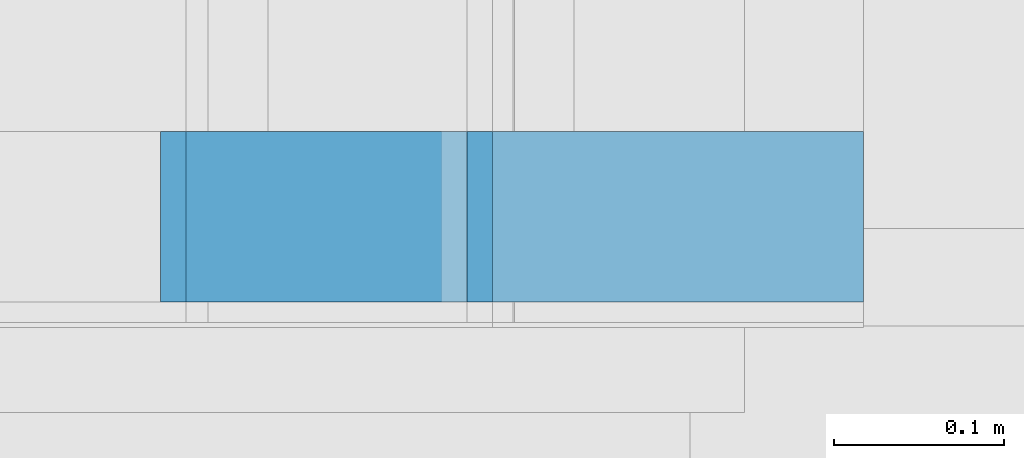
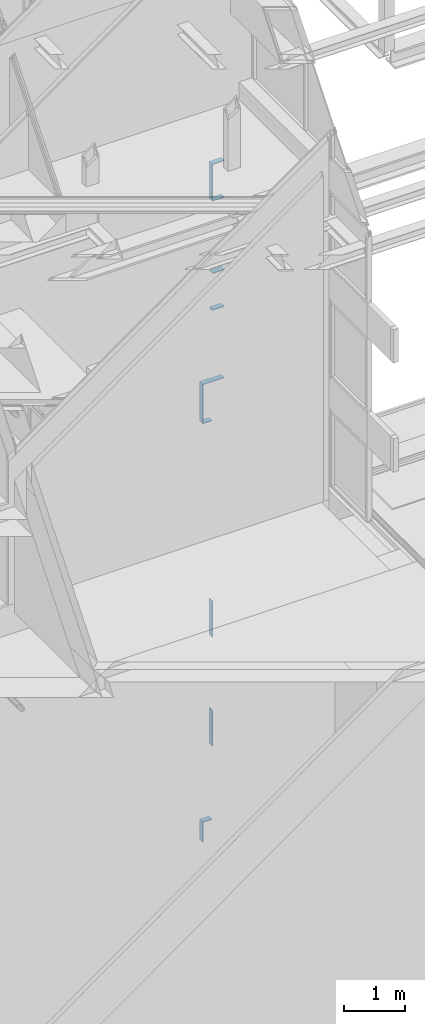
# One storey, part 225 of 583: 12 building element parts, 12 elements without a shape of their own.
"""IFC2X3 building model written with IfcOpenShell, lengths in metres."""

from ifc_helpers import new_model, entity, si_unit, converted_unit, derived_unit, money_unit, direction, frame, frame_2d, origin_with_axes, place, context, subcontext, project, spatial, polyline, rectangle, outline, extrude, material, type_object, element, aggregate, save


model = new_model("IFC2X3")

# Units and contexts
model_context = context("Model", 3, precision=1e-05, world=origin_with_axes(), true_north=direction((0.0, 1.0)))
body_context = subcontext(model_context, "Body", "Model", "MODEL_VIEW", scale=1.0)
ifc_project = project(units=[si_unit("LENGTHUNIT", "METRE"), si_unit("AREAUNIT", "SQUARE_METRE"), si_unit("VOLUMEUNIT", "CUBIC_METRE"), si_unit("ABSORBEDDOSEUNIT", "GRAY"), si_unit("AMOUNTOFSUBSTANCEUNIT", "MOLE"), si_unit("DOSEEQUIVALENTUNIT", "SIEVERT"), si_unit("ELECTRICCAPACITANCEUNIT", "FARAD"), si_unit("ELECTRICCHARGEUNIT", "COULOMB"), si_unit("ELECTRICCONDUCTANCEUNIT", "SIEMENS"), si_unit("ELECTRICCURRENTUNIT", "AMPERE"), si_unit("ELECTRICRESISTANCEUNIT", "OHM"), si_unit("ELECTRICVOLTAGEUNIT", "VOLT"), si_unit("ENERGYUNIT", "JOULE"), si_unit("FORCEUNIT", "NEWTON"), si_unit("FREQUENCYUNIT", "HERTZ"), si_unit("ILLUMINANCEUNIT", "LUX"), si_unit("INDUCTANCEUNIT", "HENRY"), si_unit("LUMINOUSFLUXUNIT", "LUMEN"), si_unit("LUMINOUSINTENSITYUNIT", "CANDELA"), si_unit("MAGNETICFLUXDENSITYUNIT", "TESLA"), si_unit("MAGNETICFLUXUNIT", "WEBER"), si_unit("MASSUNIT", "GRAM"), converted_unit("PLANEANGLEUNIT", "degree", entity("IfcReal", 0.0174532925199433), si_unit("PLANEANGLEUNIT", "RADIAN"), dimensions=[0, 0, 0, 0, 0, 0, 0]), si_unit("POWERUNIT", "WATT"), si_unit("PRESSUREUNIT", "PASCAL"), si_unit("RADIOACTIVITYUNIT", "BECQUEREL"), si_unit("SOLIDANGLEUNIT", "STERADIAN"), si_unit("THERMODYNAMICTEMPERATUREUNIT", "KELVIN"), si_unit("TIMEUNIT", "SECOND"), derived_unit("ACCELERATIONUNIT", [(si_unit("LENGTHUNIT", "METRE"), 1), (si_unit("TIMEUNIT", "SECOND"), -2)]), derived_unit("ANGULARVELOCITYUNIT", [(converted_unit("PLANEANGLEUNIT", "degree", entity("IfcReal", 0.0174532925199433), si_unit("PLANEANGLEUNIT", "RADIAN"), dimensions=[0, 0, 0, 0, 0, 0, 0]), 1), (si_unit("TIMEUNIT", "SECOND"), -1)]), derived_unit("CURVATUREUNIT", [(converted_unit("PLANEANGLEUNIT", "degree", entity("IfcReal", 0.0174532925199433), si_unit("PLANEANGLEUNIT", "RADIAN"), dimensions=[0, 0, 0, 0, 0, 0, 0]), 1), (si_unit("LENGTHUNIT", "METRE"), -1)]), derived_unit("DYNAMICVISCOSITYUNIT", [(si_unit("PRESSUREUNIT", "PASCAL"), 1), (si_unit("TIMEUNIT", "SECOND"), 1)]), derived_unit("HEATFLUXDENSITYUNIT", [(si_unit("POWERUNIT", "WATT"), 1), (si_unit("LENGTHUNIT", "METRE"), -2)]), derived_unit("HEATINGVALUEUNIT", [(si_unit("ENERGYUNIT", "JOULE"), 1), (si_unit("MASSUNIT", "GRAM"), -1)]), derived_unit("INTEGERCOUNTRATEUNIT", [(si_unit("TIMEUNIT", "SECOND"), -1)]), derived_unit("IONCONCENTRATIONUNIT", [(si_unit("MASSUNIT", "GRAM"), 1), (si_unit("VOLUMEUNIT", "CUBIC_METRE"), -1)]), derived_unit("ISOTHERMALMOISTURECAPACITYUNIT", [(si_unit("VOLUMEUNIT", "CUBIC_METRE"), 1), (si_unit("MASSUNIT", "GRAM"), -1)]), derived_unit("KINEMATICVISCOSITYUNIT", [(si_unit("AREAUNIT", "SQUARE_METRE"), 1), (si_unit("TIMEUNIT", "SECOND"), -1)]), derived_unit("LINEARFORCEUNIT", [(si_unit("FORCEUNIT", "NEWTON"), 1), (si_unit("LENGTHUNIT", "METRE"), -1)]), derived_unit("LINEARMOMENTUNIT", [(si_unit("FORCEUNIT", "NEWTON"), 1), (si_unit("LENGTHUNIT", "METRE"), -1)]), derived_unit("LINEARSTIFFNESSUNIT", [(si_unit("FORCEUNIT", "NEWTON"), 1), (si_unit("LENGTHUNIT", "METRE"), -1)]), derived_unit("LINEARVELOCITYUNIT", [(si_unit("LENGTHUNIT", "METRE"), 1), (si_unit("TIMEUNIT", "SECOND"), -1)]), derived_unit("LUMINOUSINTENSITYDISTRIBUTIONUNIT", [(si_unit("LUMINOUSINTENSITYUNIT", "CANDELA"), 1), (si_unit("LUMINOUSFLUXUNIT", "LUMEN"), -1)]), derived_unit("MASSDENSITYUNIT", [(si_unit("MASSUNIT", "GRAM"), 1), (si_unit("VOLUMEUNIT", "CUBIC_METRE"), -1)]), derived_unit("MASSFLOWRATEUNIT", [(si_unit("MASSUNIT", "GRAM"), 1), (si_unit("TIMEUNIT", "SECOND"), -1)]), derived_unit("MASSPERLENGTHUNIT", [(si_unit("MASSUNIT", "GRAM"), 1), (si_unit("LENGTHUNIT", "METRE"), -1)]), derived_unit("MODULUSOFELASTICITYUNIT", [(si_unit("FORCEUNIT", "NEWTON"), 1), (si_unit("AREAUNIT", "SQUARE_METRE"), -1)]), derived_unit("MODULUSOFLINEARSUBGRADEREACTIONUNIT", [(si_unit("FORCEUNIT", "NEWTON"), 1), (si_unit("LENGTHUNIT", "METRE"), -2)]), derived_unit("MODULUSOFROTATIONALSUBGRADEREACTIONUNIT", [(si_unit("FORCEUNIT", "NEWTON"), 1), (si_unit("LENGTHUNIT", "METRE"), 1)]), derived_unit("MODULUSOFSUBGRADEREACTIONUNIT", [(si_unit("FORCEUNIT", "NEWTON"), 1), (si_unit("VOLUMEUNIT", "CUBIC_METRE"), -1)]), derived_unit("MOISTUREDIFFUSIVITYUNIT", [(si_unit("VOLUMEUNIT", "CUBIC_METRE"), 1), (si_unit("TIMEUNIT", "SECOND"), -1)]), derived_unit("MOLECULARWEIGHTUNIT", [(si_unit("MASSUNIT", "GRAM"), 1), (si_unit("AMOUNTOFSUBSTANCEUNIT", "MOLE"), -1)]), derived_unit("PLANARFORCEUNIT", [(si_unit("FORCEUNIT", "NEWTON"), 1), (si_unit("LENGTHUNIT", "METRE"), -2)]), derived_unit("ROTATIONALFREQUENCYUNIT", [(si_unit("TIMEUNIT", "SECOND"), -1)]), derived_unit("ROTATIONALMASSUNIT", [(si_unit("MASSUNIT", "GRAM"), 1), (si_unit("LENGTHUNIT", "METRE"), 2)]), derived_unit("ROTATIONALSTIFFNESSUNIT", [(si_unit("FORCEUNIT", "NEWTON"), 1), (si_unit("LENGTHUNIT", "METRE"), 1), (converted_unit("PLANEANGLEUNIT", "degree", entity("IfcReal", 0.0174532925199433), si_unit("PLANEANGLEUNIT", "RADIAN"), dimensions=[0, 0, 0, 0, 0, 0, 0]), -1)]), derived_unit("SECTIONAREAINTEGRALUNIT", [(si_unit("LENGTHUNIT", "METRE"), 5)]), derived_unit("SECTIONMODULUSUNIT", [(si_unit("LENGTHUNIT", "METRE"), 3)]), derived_unit("SHEARMODULUSUNIT", [(si_unit("FORCEUNIT", "NEWTON"), 1), (si_unit("AREAUNIT", "SQUARE_METRE"), -1)]), derived_unit("SOUNDPOWERUNIT", [(si_unit("ENERGYUNIT", "JOULE"), 1), (si_unit("TIMEUNIT", "SECOND"), -1)]), derived_unit("SPECIFICHEATCAPACITYUNIT", [(si_unit("FORCEUNIT", "NEWTON"), 1), (si_unit("MASSUNIT", "GRAM"), -1), (si_unit("THERMODYNAMICTEMPERATUREUNIT", "KELVIN"), -1)]), derived_unit("TEMPERATUREGRADIENTUNIT", [(si_unit("THERMODYNAMICTEMPERATUREUNIT", "KELVIN"), 1), (si_unit("LENGTHUNIT", "METRE"), -1)]), derived_unit("THERMALADMITTANCEUNIT", [(si_unit("POWERUNIT", "WATT"), 1), (si_unit("AREAUNIT", "SQUARE_METRE"), -1), (si_unit("THERMODYNAMICTEMPERATUREUNIT", "KELVIN"), -1)]), derived_unit("THERMALCONDUCTANCEUNIT", [(si_unit("POWERUNIT", "WATT"), 1), (si_unit("LENGTHUNIT", "METRE"), -1), (si_unit("THERMODYNAMICTEMPERATUREUNIT", "KELVIN"), -1)]), derived_unit("THERMALEXPANSIONCOEFFICIENTUNIT", [(si_unit("THERMODYNAMICTEMPERATUREUNIT", "KELVIN"), -1)]), derived_unit("THERMALRESISTANCEUNIT", [(si_unit("AREAUNIT", "SQUARE_METRE"), 1), (si_unit("POWERUNIT", "WATT"), -1)]), derived_unit("THERMALTRANSMITTANCEUNIT", [(si_unit("POWERUNIT", "WATT"), 1), (si_unit("AREAUNIT", "SQUARE_METRE"), -1), (si_unit("THERMODYNAMICTEMPERATUREUNIT", "KELVIN"), -1)]), derived_unit("TORQUEUNIT", [(si_unit("FORCEUNIT", "NEWTON"), 1), (si_unit("LENGTHUNIT", "METRE"), 1)]), derived_unit("VAPORPERMEABILITYUNIT", [(si_unit("MASSUNIT", "GRAM"), 1), (si_unit("TIMEUNIT", "SECOND"), -1)]), derived_unit("VOLUMETRICFLOWRATEUNIT", [(si_unit("VOLUMEUNIT", "CUBIC_METRE"), 1), (si_unit("TIMEUNIT", "SECOND"), -1)]), derived_unit("WARPINGCONSTANTUNIT", [(si_unit("LENGTHUNIT", "METRE"), 6)]), derived_unit("WARPINGMOMENTUNIT", [(si_unit("FORCEUNIT", "NEWTON"), 1), (si_unit("LENGTHUNIT", "METRE"), 2)]), money_unit("GBP")], contexts=[model_context])

# Site, building, storey
site_placement = place(None, origin_with_axes())
site = spatial("IfcSite", under=ifc_project, at=site_placement, Name="Site", CompositionType="ELEMENT")
building_placement = place(site_placement, origin_with_axes())
building = spatial("IfcBuilding", under=site, at=building_placement, Name="Building01", CompositionType="ELEMENT")
storey_placement = place(building_placement, frame((0.0, 0.0, 20.78), z_axis=(0.0, 0.0, 1.0), x_axis=(1.0, 0.0, 0.0)))
storey = spatial("IfcBuildingStorey", under=building, at=storey_placement, Name="RL", CompositionType="ELEMENT", Elevation=20.78)

# Wall, building element part
wall_type = type_object("IfcWallType", Name="SHE_A-Walls_Type06d_ExternalWallInsulation_48mm", PredefinedType="NOTDEFINED")
wall_1_placement = place(storey_placement, frame((14.8, 8.64, -20.103), z_axis=(0.0, 1.0, 0.0), x_axis=(-1.0, 0.0, 0.0)))
wall_1 = element("IfcWall", 1, at=wall_1_placement, inside=storey, type_object=wall_type, Name="6D", ObjectType="SHE_A-Walls_Type06d_ExternalWallInsulation_48mm")
ifc_material = material(Name="A_BSUK_Walls_Timber")
building_element_part_1_placement = place(wall_1_placement, origin_with_axes())
building_element_part_1 = element("IfcBuildingElementPart", 2, at=building_element_part_1_placement, material=ifc_material, Name="2", context=body_context, shape_type="SweptSolid", body=[
    extrude(outline(polyline([(0.413, 0.063), (0.233, 0.063), (0.233, 0.048), (0.398, 0.048), (0.413, 0.063)])), frame((0.0, 0.0, 0.015), z_axis=(0.0, 0.0, 1.0), x_axis=(1.0, 0.0, 0.0)), (0.0, 0.0, 1.0), 0.1),
])
aggregate(wall_1, [building_element_part_1])

wall_2_placement = place(storey_placement, frame((14.45, 8.64, -20.103), z_axis=(0.0, 1.0, 0.0), x_axis=(0.0, 0.0, -1.0)))
wall_2 = element("IfcWall", 3, at=wall_2_placement, inside=storey, type_object=wall_type, Name="6D", ObjectType="SHE_A-Walls_Type06d_ExternalWallInsulation_48mm")
building_element_part_2_placement = place(wall_2_placement, origin_with_axes())
building_element_part_2 = element("IfcBuildingElementPart", 4, at=building_element_part_2_placement, material=ifc_material, Name="2", context=body_context, shape_type="SweptSolid", body=[
    extrude(outline(polyline([(0.344, 0.063), (-0.063, 0.063), (-0.048, 0.048), (0.359, 0.048), (0.344, 0.063)])), frame((0.0, 0.0, 0.015), z_axis=(0.0, 0.0, 1.0), x_axis=(1.0, 0.0, 0.0)), (0.0, 0.0, 1.0), 0.1),
])
aggregate(wall_2, [building_element_part_2])

wall_3_placement = place(storey_placement, frame((14.63, 8.64, -17.913), z_axis=(0.0, 1.0, 0.0), x_axis=(0.0, 0.0, -1.0)))
wall_3 = element("IfcWall", 5, at=wall_3_placement, inside=storey, type_object=wall_type, Name="6D", ObjectType="SHE_A-Walls_Type06d_ExternalWallInsulation_48mm")
building_element_part_3_placement = place(wall_3_placement, origin_with_axes())
building_element_part_3 = element("IfcBuildingElementPart", 6, at=building_element_part_3_placement, material=ifc_material, Name="2", context=body_context, shape_type="SweptSolid", body=[
    extrude(rectangle(XDim=0.72, YDim=0.015, at=frame_2d((0.312, 0.0555), x_axis=(1.0, 0.0))), frame((0.0, 0.0, 0.015), z_axis=(0.0, 0.0, 1.0), x_axis=(1.0, 0.0, 0.0)), (0.0, 0.0, 1.0), 0.1),
])
aggregate(wall_3, [building_element_part_3])

wall_4_placement = place(storey_placement, frame((14.63, 8.64, -15.723), z_axis=(0.0, 1.0, 0.0), x_axis=(0.0, 0.0, -1.0)))
wall_4 = element("IfcWall", 7, at=wall_4_placement, inside=storey, type_object=wall_type, Name="6D", ObjectType="SHE_A-Walls_Type06d_ExternalWallInsulation_48mm")
building_element_part_4_placement = place(wall_4_placement, origin_with_axes())
building_element_part_4 = element("IfcBuildingElementPart", 8, at=building_element_part_4_placement, material=ifc_material, Name="2", context=body_context, shape_type="SweptSolid", body=[
    extrude(rectangle(XDim=0.72, YDim=0.015, at=frame_2d((0.312, 0.0555), x_axis=(1.0, 0.0))), frame((0.0, 0.0, 0.015), z_axis=(0.0, 0.0, 1.0), x_axis=(1.0, 0.0, 0.0)), (0.0, 0.0, 1.0), 0.1),
])
aggregate(wall_4, [building_element_part_4])

wall_5_placement = place(storey_placement, frame((14.8, 8.64, -11.32), z_axis=(0.0, 1.0, 0.0), x_axis=(-1.0, 0.0, 0.0)))
wall_5 = element("IfcWall", 9, at=wall_5_placement, inside=storey, type_object=wall_type, Name="6D", ObjectType="SHE_A-Walls_Type06d_ExternalWallInsulation_48mm")
building_element_part_5_placement = place(wall_5_placement, origin_with_axes())
building_element_part_5 = element("IfcBuildingElementPart", 10, at=building_element_part_5_placement, material=ifc_material, Name="2", context=body_context, shape_type="SweptSolid", body=[
    extrude(outline(polyline([(0.413, 0.063), (0.0, 0.063), (0.0, 0.048), (0.398, 0.048), (0.413, 0.063)])), frame((0.0, 0.0, 0.015), z_axis=(0.0, 0.0, 1.0), x_axis=(1.0, 0.0, 0.0)), (0.0, 0.0, 1.0), 0.1),
])
aggregate(wall_5, [building_element_part_5])

wall_6_placement = place(storey_placement, frame((14.45, 8.64, -11.32), z_axis=(0.0, 1.0, 0.0), x_axis=(0.0, 0.0, -1.0)))
wall_6 = element("IfcWall", 11, at=wall_6_placement, inside=storey, type_object=wall_type, Name="6D", ObjectType="SHE_A-Walls_Type06d_ExternalWallInsulation_48mm")
building_element_part_6_placement = place(wall_6_placement, origin_with_axes())
building_element_part_6 = element("IfcBuildingElementPart", 12, at=building_element_part_6_placement, material=ifc_material, Name="2", context=body_context, shape_type="SweptSolid", body=[
    extrude(outline(polyline([(0.733, 0.063), (-0.063, 0.063), (-0.048, 0.048), (0.718, 0.048), (0.733, 0.063)])), frame((0.0, 0.0, 0.015), z_axis=(0.0, 0.0, 1.0), x_axis=(1.0, 0.0, 0.0)), (0.0, 0.0, 1.0), 0.1),
])
aggregate(wall_6, [building_element_part_6])

wall_7_placement = place(storey_placement, frame((14.45, 8.64, -11.99), z_axis=(0.0, 1.0, 0.0), x_axis=(1.0, 0.0, 0.0)))
wall_7 = element("IfcWall", 13, at=wall_7_placement, inside=storey, type_object=wall_type, Name="6D", ObjectType="SHE_A-Walls_Type06d_ExternalWallInsulation_48mm")
building_element_part_7_placement = place(wall_7_placement, origin_with_axes())
building_element_part_7 = element("IfcBuildingElementPart", 14, at=building_element_part_7_placement, material=ifc_material, Name="2", context=body_context, shape_type="SweptSolid", body=[
    extrude(outline(polyline([(-0.063, 0.063), (-0.048, 0.048), (0.117, 0.048), (0.117, 0.063), (-0.063, 0.063)])), frame((0.0, 0.0, 0.015), z_axis=(0.0, 0.0, 1.0), x_axis=(1.0, 0.0, 0.0)), (0.0, 0.0, 1.0), 0.1),
])
aggregate(wall_7, [building_element_part_7])

wall_8_placement = place(storey_placement, frame((14.8, 8.64, -9.153), z_axis=(0.0, 1.0, 0.0), x_axis=(-1.0, 0.0, 0.0)))
wall_8 = element("IfcWall", 15, at=wall_8_placement, inside=storey, type_object=wall_type, Name="6D", ObjectType="SHE_A-Walls_Type06d_ExternalWallInsulation_48mm")
building_element_part_8_placement = place(wall_8_placement, origin_with_axes())
building_element_part_8 = element("IfcBuildingElementPart", 16, at=building_element_part_8_placement, material=ifc_material, Name="2", context=body_context, shape_type="SweptSolid", body=[
    extrude(outline(polyline([(0.233, 0.063), (0.0, 0.063), (0.0, 0.048), (0.218, 0.048), (0.233, 0.063)])), frame((0.0, 0.0, 0.015), z_axis=(0.0, 0.0, 1.0), x_axis=(1.0, 0.0, 0.0)), (0.0, 0.0, 1.0), 0.1),
])
aggregate(wall_8, [building_element_part_8])

wall_9_placement = place(storey_placement, frame((14.63, 8.64, -9.777), z_axis=(0.0, 1.0, 0.0), x_axis=(1.0, 0.0, 0.0)))
wall_9 = element("IfcWall", 17, at=wall_9_placement, inside=storey, type_object=wall_type, Name="6D", ObjectType="SHE_A-Walls_Type06d_ExternalWallInsulation_48mm")
building_element_part_9_placement = place(wall_9_placement, origin_with_axes())
building_element_part_9 = element("IfcBuildingElementPart", 18, at=building_element_part_9_placement, material=ifc_material, Name="2", context=body_context, shape_type="SweptSolid", body=[
    extrude(outline(polyline([(-0.063, 0.063), (-0.048, 0.048), (0.17, 0.048), (0.17, 0.063), (-0.063, 0.063)])), frame((0.0, 0.0, 0.015), z_axis=(0.0, 0.0, 1.0), x_axis=(1.0, 0.0, 0.0)), (0.0, 0.0, 1.0), 0.1),
])
aggregate(wall_9, [building_element_part_9])

wall_10_placement = place(storey_placement, frame((14.8, 8.64, -6.963), z_axis=(0.0, 1.0, 0.0), x_axis=(-1.0, 0.0, 0.0)))
wall_10 = element("IfcWall", 19, at=wall_10_placement, inside=storey, type_object=wall_type, Name="6D", ObjectType="SHE_A-Walls_Type06d_ExternalWallInsulation_48mm")
building_element_part_10_placement = place(wall_10_placement, origin_with_axes())
building_element_part_10 = element("IfcBuildingElementPart", 20, at=building_element_part_10_placement, material=ifc_material, Name="2", context=body_context, shape_type="SweptSolid", body=[
    extrude(outline(polyline([(0.233, 0.063), (0.0, 0.063), (0.0, 0.048), (0.218, 0.048), (0.233, 0.063)])), frame((0.0, 0.0, 0.015), z_axis=(0.0, 0.0, 1.0), x_axis=(1.0, 0.0, 0.0)), (0.0, 0.0, 1.0), 0.1),
])
aggregate(wall_10, [building_element_part_10])

wall_11_placement = place(storey_placement, frame((14.63, 8.64, -6.963), z_axis=(0.0, 1.0, 0.0), x_axis=(0.0, 0.0, -1.0)))
wall_11 = element("IfcWall", 21, at=wall_11_placement, inside=storey, type_object=wall_type, Name="6D", ObjectType="SHE_A-Walls_Type06d_ExternalWallInsulation_48mm")
building_element_part_11_placement = place(wall_11_placement, origin_with_axes())
building_element_part_11 = element("IfcBuildingElementPart", 22, at=building_element_part_11_placement, material=ifc_material, Name="2", context=body_context, shape_type="SweptSolid", body=[
    extrude(outline(polyline([(0.687, 0.063), (-0.063, 0.063), (-0.048, 0.048), (0.672, 0.048), (0.687, 0.063)])), frame((0.0, 0.0, 0.015), z_axis=(0.0, 0.0, 1.0), x_axis=(1.0, 0.0, 0.0)), (0.0, 0.0, 1.0), 0.1),
])
aggregate(wall_11, [building_element_part_11])

wall_12_placement = place(storey_placement, frame((14.63, 8.64, -7.587), z_axis=(0.0, 1.0, 0.0), x_axis=(1.0, 0.0, 0.0)))
wall_12 = element("IfcWall", 23, at=wall_12_placement, inside=storey, type_object=wall_type, Name="6D", ObjectType="SHE_A-Walls_Type06d_ExternalWallInsulation_48mm")
building_element_part_12_placement = place(wall_12_placement, origin_with_axes())
building_element_part_12 = element("IfcBuildingElementPart", 24, at=building_element_part_12_placement, material=ifc_material, Name="2", context=body_context, shape_type="SweptSolid", body=[
    extrude(outline(polyline([(-0.063, 0.063), (-0.048, 0.048), (0.17, 0.048), (0.17, 0.063), (-0.063, 0.063)])), frame((0.0, 0.0, 0.015), z_axis=(0.0, 0.0, 1.0), x_axis=(1.0, 0.0, 0.0)), (0.0, 0.0, 1.0), 0.1),
])
aggregate(wall_12, [building_element_part_12])

save(model, "model.ifc")
